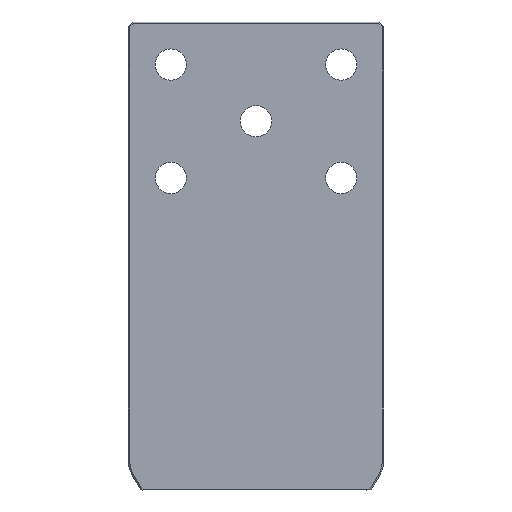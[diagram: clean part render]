
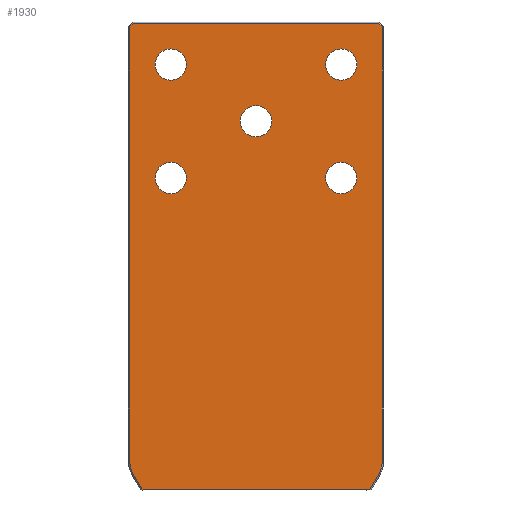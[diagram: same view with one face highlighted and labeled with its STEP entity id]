
A CAD part, front view. The second image highlights one B-rep face of the part: STEP entity #1930.
In plain terms, the highlighted planar face has unit normal (0, -1, 0).
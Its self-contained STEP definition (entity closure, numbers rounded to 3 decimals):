
#135=VERTEX_POINT(' ',#136);
#136=CARTESIAN_POINT('',(60.,-55.,-121.));
#137=VERTEX_POINT(' ',#138);
#138=CARTESIAN_POINT('',(60.,-55.,-99.));
#143=VERTEX_POINT(' ',#144);
#144=CARTESIAN_POINT('',(-60.,-55.,-41.));
#145=VERTEX_POINT(' ',#146);
#146=CARTESIAN_POINT('',(-60.,-55.,-19.));
#151=VERTEX_POINT(' ',#152);
#152=CARTESIAN_POINT('',(60.,-55.,-41.));
#153=VERTEX_POINT(' ',#154);
#154=CARTESIAN_POINT('',(60.,-55.,-19.));
#159=VERTEX_POINT(' ',#160);
#160=CARTESIAN_POINT('',(-60.,-55.,-121.));
#161=VERTEX_POINT(' ',#162);
#162=CARTESIAN_POINT('',(-60.,-55.,-99.));
#167=VERTEX_POINT(' ',#168);
#168=CARTESIAN_POINT('',(0.,-55.,-81.));
#169=VERTEX_POINT(' ',#170);
#170=CARTESIAN_POINT('',(0.,-55.,-59.));
#253=VERTEX_POINT(' ',#254);
#254=CARTESIAN_POINT('',(80.185,-55.,-330.));
#255=VERTEX_POINT(' ',#256);
#256=CARTESIAN_POINT('',(86.454,-55.,-319.141));
#257=VERTEX_POINT(' ',#258);
#258=CARTESIAN_POINT('',(89.,-55.,-309.641));
#259=VERTEX_POINT(' ',#260);
#260=CARTESIAN_POINT('',(89.,-55.,-140.));
#261=VERTEX_POINT(' ',#262);
#262=CARTESIAN_POINT('',(89.,-55.,-3.414));
#265=VERTEX_POINT(' ',#266);
#266=CARTESIAN_POINT('',(86.586,-55.,-1.));
#269=VERTEX_POINT(' ',#270);
#270=CARTESIAN_POINT('',(-86.586,-55.,-1.));
#273=VERTEX_POINT(' ',#274);
#274=CARTESIAN_POINT('',(-89.,-55.,-3.414));
#283=VERTEX_POINT(' ',#284);
#284=CARTESIAN_POINT('',(-80.185,-55.,-330.));
#285=VERTEX_POINT(' ',#286);
#286=CARTESIAN_POINT('',(-89.,-55.,-140.));
#287=VERTEX_POINT(' ',#288);
#288=CARTESIAN_POINT('',(-89.,-55.,-309.641));
#289=VERTEX_POINT(' ',#290);
#290=CARTESIAN_POINT('',(-86.454,-55.,-319.141));
#291=CIRCLE('',#292,11.);
#292=AXIS2_PLACEMENT_3D('',#293,#294,#295);
#293=CARTESIAN_POINT('',(60.,-55.,-110.));
#294=DIRECTION('',(0.,-1.,0.));
#295=DIRECTION('',(-1.,0.,0.));
#296=EDGE_CURVE(' ',#135,#137,#291,.T.);
#313=CIRCLE('',#314,11.);
#314=AXIS2_PLACEMENT_3D('',#315,#316,#317);
#315=CARTESIAN_POINT('',(60.,-55.,-110.));
#316=DIRECTION('',(0.,-1.,0.));
#317=DIRECTION('',(1.,0.,0.));
#318=EDGE_CURVE(' ',#137,#135,#313,.T.);
#325=CIRCLE('',#326,11.);
#326=AXIS2_PLACEMENT_3D('',#327,#328,#329);
#327=CARTESIAN_POINT('',(-60.,-55.,-30.));
#328=DIRECTION('',(0.,-1.,0.));
#329=DIRECTION('',(-1.,0.,0.));
#330=EDGE_CURVE(' ',#143,#145,#325,.T.);
#347=CIRCLE('',#348,11.);
#348=AXIS2_PLACEMENT_3D('',#349,#350,#351);
#349=CARTESIAN_POINT('',(-60.,-55.,-30.));
#350=DIRECTION('',(0.,-1.,0.));
#351=DIRECTION('',(1.,0.,0.));
#352=EDGE_CURVE(' ',#145,#143,#347,.T.);
#359=CIRCLE('',#360,11.);
#360=AXIS2_PLACEMENT_3D('',#361,#362,#363);
#361=CARTESIAN_POINT('',(60.,-55.,-30.));
#362=DIRECTION('',(0.,1.,0.));
#363=DIRECTION('',(-1.,0.,0.));
#364=EDGE_CURVE(' ',#151,#153,#359,.F.);
#381=CIRCLE('',#382,11.);
#382=AXIS2_PLACEMENT_3D('',#383,#384,#385);
#383=CARTESIAN_POINT('',(60.,-55.,-30.));
#384=DIRECTION('',(0.,1.,0.));
#385=DIRECTION('',(1.,0.,0.));
#386=EDGE_CURVE(' ',#153,#151,#381,.F.);
#393=CIRCLE('',#394,11.);
#394=AXIS2_PLACEMENT_3D('',#395,#396,#397);
#395=CARTESIAN_POINT('',(-60.,-55.,-110.));
#396=DIRECTION('',(0.,1.,0.));
#397=DIRECTION('',(-1.,0.,0.));
#398=EDGE_CURVE(' ',#159,#161,#393,.F.);
#415=CIRCLE('',#416,11.);
#416=AXIS2_PLACEMENT_3D('',#417,#418,#419);
#417=CARTESIAN_POINT('',(-60.,-55.,-110.));
#418=DIRECTION('',(0.,1.,0.));
#419=DIRECTION('',(1.,0.,0.));
#420=EDGE_CURVE(' ',#161,#159,#415,.F.);
#427=CIRCLE('',#428,11.);
#428=AXIS2_PLACEMENT_3D('',#429,#430,#431);
#429=CARTESIAN_POINT('',(0.,-55.,-70.));
#430=DIRECTION('',(0.,1.,0.));
#431=DIRECTION('',(-1.,0.,0.));
#432=EDGE_CURVE(' ',#167,#169,#427,.F.);
#449=CIRCLE('',#450,11.);
#450=AXIS2_PLACEMENT_3D('',#451,#452,#453);
#451=CARTESIAN_POINT('',(0.,-55.,-70.));
#452=DIRECTION('',(0.,1.,0.));
#453=DIRECTION('',(1.,0.,0.));
#454=EDGE_CURVE(' ',#169,#167,#449,.F.);
#846=LINE('',#847,#848);
#847=CARTESIAN_POINT('',(86.454,-55.,-319.141));
#848=VECTOR('',#849,1.);
#849=DIRECTION('',(-0.5,0.,-0.866));
#850=EDGE_CURVE(' ',#255,#253,#846,.T.);
#856=CIRCLE('',#857,19.);
#857=AXIS2_PLACEMENT_3D('',#858,#859,#860);
#858=CARTESIAN_POINT('',(70.,-55.,-309.641));
#859=DIRECTION('',(0.,1.,0.));
#860=DIRECTION('',(-0.966,0.,0.259));
#861=EDGE_CURVE(' ',#257,#255,#856,.T.);
#867=LINE('',#868,#869);
#868=CARTESIAN_POINT('',(89.,-55.,-140.));
#869=VECTOR('',#870,1.);
#870=DIRECTION('',(0.,0.,-1.));
#871=EDGE_CURVE(' ',#259,#257,#867,.T.);
#877=LINE('',#878,#879);
#878=CARTESIAN_POINT('',(89.,-55.,2.657));
#879=VECTOR('',#880,1.);
#880=DIRECTION('',(0.,0.,-1.));
#881=EDGE_CURVE(' ',#261,#259,#877,.T.);
#897=LINE('',#898,#899);
#898=CARTESIAN_POINT('',(82.293,-55.,3.293));
#899=VECTOR('',#900,1.);
#900=DIRECTION('',(0.707,0.,-0.707));
#901=EDGE_CURVE(' ',#265,#261,#897,.T.);
#917=LINE('',#918,#919);
#918=CARTESIAN_POINT('',(-92.657,-55.,-1.));
#919=VECTOR('',#920,1.);
#920=DIRECTION('',(1.,0.,0.));
#921=EDGE_CURVE(' ',#269,#265,#917,.T.);
#937=LINE('',#938,#939);
#938=CARTESIAN_POINT('',(-93.293,-55.,-7.707));
#939=VECTOR('',#940,1.);
#940=DIRECTION('',(0.707,0.,0.707));
#941=EDGE_CURVE(' ',#273,#269,#937,.T.);
#988=LINE('',#989,#990);
#989=CARTESIAN_POINT('',(-90.12,-55.,-330.));
#990=VECTOR('',#991,1.);
#991=DIRECTION('',(1.,0.,0.));
#992=EDGE_CURVE(' ',#253,#283,#988,.F.);
#993=LINE('',#994,#995);
#994=CARTESIAN_POINT('',(-89.,-55.,-140.));
#995=VECTOR('',#996,1.);
#996=DIRECTION('',(0.,0.,1.));
#997=EDGE_CURVE(' ',#285,#273,#993,.T.);
#998=LINE('',#999,#1000);
#999=CARTESIAN_POINT('',(-89.,-55.,-309.641));
#1000=VECTOR('',#1001,1.);
#1001=DIRECTION('',(0.,0.,1.));
#1002=EDGE_CURVE(' ',#287,#285,#998,.T.);
#1003=CIRCLE('',#1004,19.);
#1004=AXIS2_PLACEMENT_3D('',#1005,#1006,#1007);
#1005=CARTESIAN_POINT('',(-70.,-55.,-309.641));
#1006=DIRECTION('',(0.,1.,0.));
#1007=DIRECTION('',(0.966,0.,0.259));
#1008=EDGE_CURVE(' ',#289,#287,#1003,.T.);
#1009=LINE('',#1010,#1011);
#1010=CARTESIAN_POINT('',(-77.645,-55.,-334.399));
#1011=VECTOR('',#1012,1.);
#1012=DIRECTION('',(-0.5,0.,0.866));
#1013=EDGE_CURVE(' ',#283,#289,#1009,.T.);
#1891=ORIENTED_EDGE('',*,*,#997,.F.);
#1892=ORIENTED_EDGE('',*,*,#1002,.F.);
#1893=ORIENTED_EDGE('',*,*,#1008,.F.);
#1894=ORIENTED_EDGE('',*,*,#1013,.F.);
#1895=ORIENTED_EDGE('',*,*,#992,.F.);
#1896=ORIENTED_EDGE('',*,*,#850,.F.);
#1897=ORIENTED_EDGE('',*,*,#861,.F.);
#1898=ORIENTED_EDGE('',*,*,#871,.F.);
#1899=ORIENTED_EDGE('',*,*,#881,.F.);
#1900=ORIENTED_EDGE('',*,*,#901,.F.);
#1901=ORIENTED_EDGE('',*,*,#921,.F.);
#1902=ORIENTED_EDGE('',*,*,#941,.F.);
#1903=EDGE_LOOP('',(#1891,#1892,#1893,#1894,#1895,#1896,#1897,#1898,#1899,#1900,#1901,#1902));
#1904=FACE_OUTER_BOUND('',#1903,.T.);
#1905=ORIENTED_EDGE('',*,*,#454,.F.);
#1906=ORIENTED_EDGE('',*,*,#432,.F.);
#1907=EDGE_LOOP('',(#1905,#1906));
#1908=FACE_BOUND('',#1907,.T.);
#1909=ORIENTED_EDGE('',*,*,#420,.F.);
#1910=ORIENTED_EDGE('',*,*,#398,.F.);
#1911=EDGE_LOOP('',(#1909,#1910));
#1912=FACE_BOUND('',#1911,.T.);
#1913=ORIENTED_EDGE('',*,*,#386,.F.);
#1914=ORIENTED_EDGE('',*,*,#364,.F.);
#1915=EDGE_LOOP('',(#1913,#1914));
#1916=FACE_BOUND('',#1915,.T.);
#1917=ORIENTED_EDGE('',*,*,#352,.F.);
#1918=ORIENTED_EDGE('',*,*,#330,.F.);
#1919=EDGE_LOOP('',(#1917,#1918));
#1920=FACE_BOUND('',#1919,.T.);
#1921=ORIENTED_EDGE('',*,*,#318,.F.);
#1922=ORIENTED_EDGE('',*,*,#296,.F.);
#1923=EDGE_LOOP('',(#1921,#1922));
#1924=FACE_BOUND('',#1923,.T.);
#1925=PLANE('',#1926);
#1926=AXIS2_PLACEMENT_3D('',#1927,#1928,#1929);
#1927=CARTESIAN_POINT('',(0.,-55.,0.));
#1928=DIRECTION('',(0.,-1.,0.));
#1929=DIRECTION('',(0.,0.,-1.));
#1930=ADVANCED_FACE('',(#1904,#1908,#1912,#1916,#1920,#1924),#1925,.T.);
